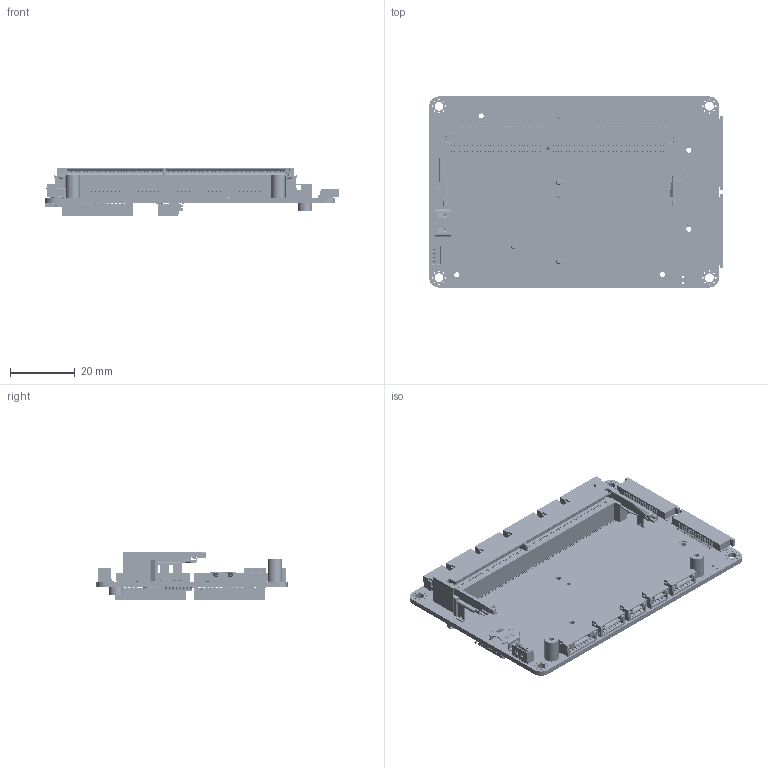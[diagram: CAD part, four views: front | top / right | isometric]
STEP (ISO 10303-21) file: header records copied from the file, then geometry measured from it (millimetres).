
FILE_DESCRIPTION(/* description */ (''),/* implementation_level */ '2;1');
FILE_NAME(/* name */ 'Aerium_Lumen.step',/* time_stamp */ '2024-09-24T16:26:11+03:00',/* author */ (''),/* organization */ (''),/* preprocessor_version */ 'ST-DEVELOPER v20',/* originating_system */ 'Autodesk Translation Framework v13.14.0.145',/* authorisation */ '');
FILE_SCHEMA (('AUTOMOTIVE_DESIGN { 1 0 10303 214 3 1 1 }'));
Products named in the file (32): Aerium_Lumen_Public; JST_GH_SM08B-GHS-TB_1x08-1MP_P1.25mm_Horizontal; SOLID (13); TE_1-84952-5_1x15-1MP_P1.0mm_Horizontal; SOLID (6); JST_GH_SM04B-GHS-TB_1x04-1MP_P1.25mm_Horizontal; SOLID (12); 2998TR--3DModel-STEP-630548; SOLID (21); JST_GH_SM06B-GHS-TB_1x06-1MP_P1.25mm_Horizontal; SOLID (7); 9774070243R (rev1); SOLID (18); 2309413-1; SOLID (24); JST_GH_SM10B-GHS-TB_1x10-1MP_P1.25mm_Horizontal; SOLID (26); 530470410; COMPOUND (7); 2199230-3; SOLID (32); 2199230-4; SOLID (36); 503398-1892; COMPOUND (13); 9774025243R (rev1); SOLID (34); 1-2199230-5; SOLID (40); KP13B-SF-PEJ(800); COMPOUND (15); lumen PCB
Assembly tree (42 placements, depth 3):
  Aerium_Lumen_Public
    TE_1-84952-5_1x15-1MP_P1.0mm_Horizontal  x2
      SOLID (6)
    JST_GH_SM06B-GHS-TB_1x06-1MP_P1.25mm_Horizontal  x4
      SOLID (7)
    JST_GH_SM04B-GHS-TB_1x04-1MP_P1.25mm_Horizontal  x4
      SOLID (12)
    JST_GH_SM08B-GHS-TB_1x08-1MP_P1.25mm_Horizontal  x2
      SOLID (13)
    9774070243R (rev1)  x2
      SOLID (18)
    2998TR--3DModel-STEP-630548
      SOLID (21)
    2309413-1
      SOLID (24)
    JST_GH_SM10B-GHS-TB_1x10-1MP_P1.25mm_Horizontal
      SOLID (26)
    530470410
      COMPOUND (7)
    2199230-3
      SOLID (32)
    9774025243R (rev1)  x3
      SOLID (34)
    2199230-4
      SOLID (36)
    503398-1892
      COMPOUND (13)
    1-2199230-5
      SOLID (40)
    KP13B-SF-PEJ(800)
      COMPOUND (15)
    lumen PCB
Bounding box: 90.66 x 59 x 15.11 mm (x, y, z)
Volume: 16889.8 mm3; surface area: 24477 mm2
Topology: 27 solids, 28 shells, 13882 faces, 39151 edges, 25870 vertices
Faces by surface type: plane 10594, cylinder 3176, bspline 85, torus 12, cone 9, sphere 6
Full cylindrical faces by diameter (mm): 0.25 x1, 0.4 x1, 0.5 x36, 0.7 x4, 0.8 x3, 0.9 x1, 1.1 x1, 1.15 x3, 1.45 x3, 1.567 x5, 1.6 x1, 1.65 x3, 2.7 x4, 2.8 x5, 3 x5, 4.35 x5
Entity records: 404957 total; most frequent: CARTESIAN_POINT 85145, ORIENTED_EDGE 67054, DIRECTION 63418, EDGE_CURVE 33527, LINE 26916, VECTOR 26916, VERTEX_POINT 22183, AXIS2_PLACEMENT_3D 18251
